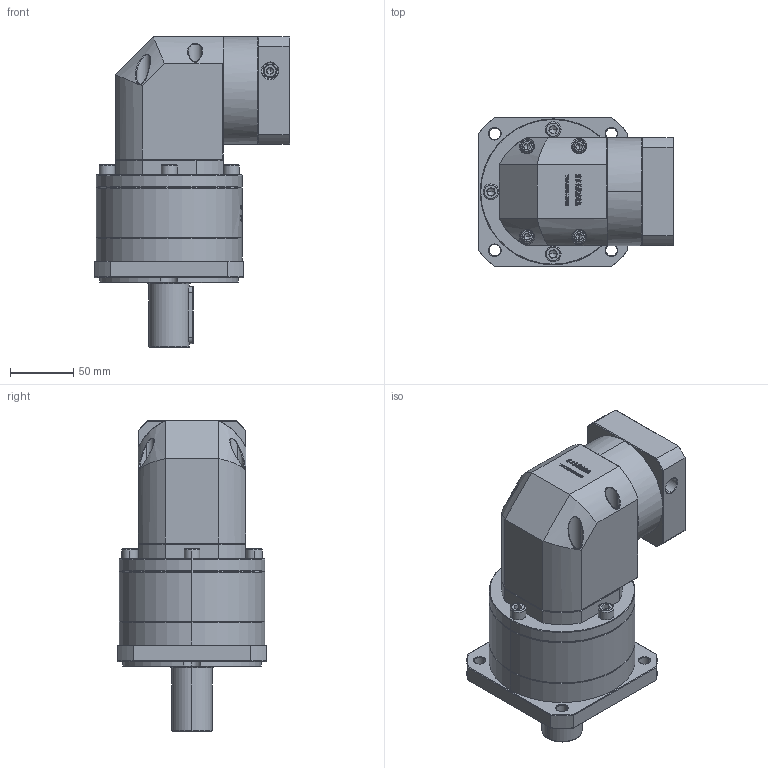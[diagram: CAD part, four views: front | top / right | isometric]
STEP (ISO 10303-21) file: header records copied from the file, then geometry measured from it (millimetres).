
FILE_DESCRIPTION (( 'STEP AP214' ), '1' );
FILE_NAME ('ZFR120A-D32-L2-14-60-75-M5.step', '2023-03-08T05:47:59', ( '' ), ( '' ), 'SwSTEP 2.0', 'SolidWorks 2016', '' );
FILE_SCHEMA (( 'AUTOMOTIVE_DESIGN' ));
Length unit declared in the file: millimetre
Products named in the file (1): ZFR120A-D32-L2-14-60-75-M5
Bounding box: 154.1 x 118 x 245 mm (x, y, z)
Volume: 1876545.2 mm3; surface area: 170703.7 mm2
Topology: 6 solids, 6 shells, 3010 faces, 7979 edges, 5114 vertices
Faces by surface type: plane 1597, bspline 625, cylinder 452, cone 322, torus 14
Entity records: 164055 total; most frequent: CARTESIAN_POINT 62305, ORIENTED_EDGE 15866, DIRECTION 11679, EDGE_CURVE 7933, VERTEX_POINT 5114, LINE 4977, VECTOR 4977, AXIS2_PLACEMENT_3D 3351
